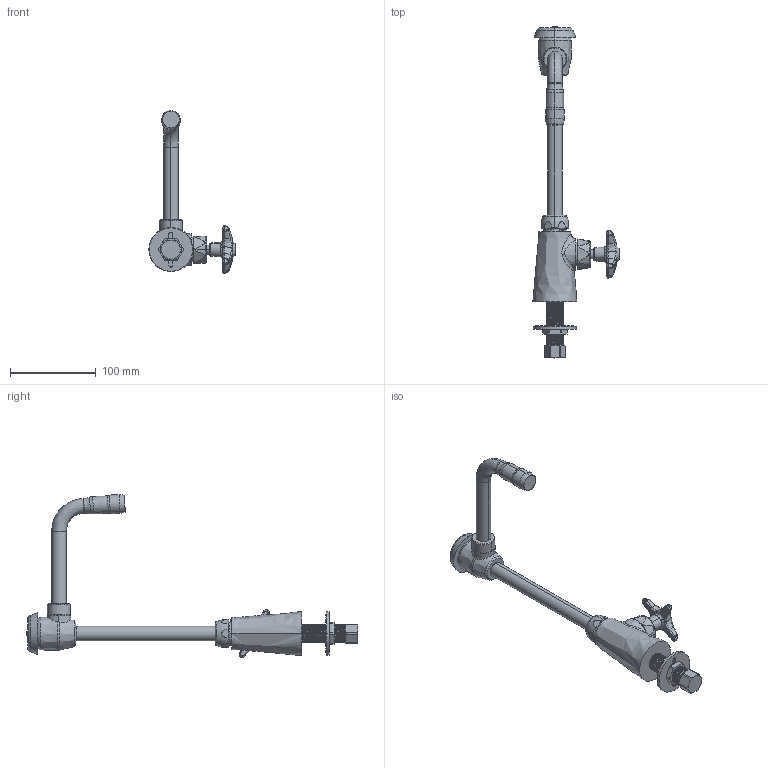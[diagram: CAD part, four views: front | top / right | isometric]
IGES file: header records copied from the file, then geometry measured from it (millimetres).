
Start section:  PTC IGES file: LWS1-B23-E.igs
Global section: file name: LWS1-B23-E.igs; native system: Creo Parametric by PTC Inc.; preprocessor: 2014500; author: usch_engrender; organization: Unknown; date: 20151202.201400; units: inch
Bounding box: 100.83 x 387.93 x 190.3 mm (x, y, z)
Volume: 336902.9 mm3; surface area: 75275.3 mm2
Topology: 1 solids, 5 shells, 435 faces, 1055 edges, 648 vertices
Faces by surface type: revolution 227, bspline 208
